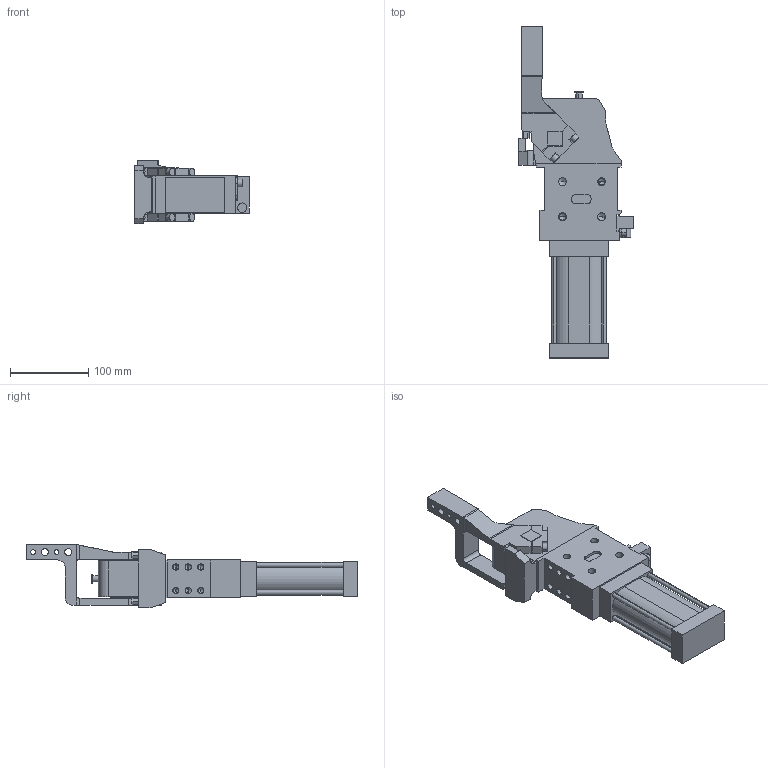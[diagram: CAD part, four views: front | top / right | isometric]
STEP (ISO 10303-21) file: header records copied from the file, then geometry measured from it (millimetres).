
FILE_DESCRIPTION (( 'STEP AP214' ), '1' );
FILE_NAME ('cpl50th1si1g_107.STEP', '2023-01-26T09:46:59', ( '' ), ( '' ), 'SwSTEP 2.0', 'SolidWorks 2022', '' );
FILE_SCHEMA (( 'AUTOMOTIVE_DESIGN' ));
Length unit declared in the file: millimetre
Products named in the file (4): leva_h1s_cpl50t; cpl50th1si1g_107; blocchetto_VEP_0; meccanica_cpl_50_tassello_esterno
Assembly tree (3 placements, depth 2):
  cpl50th1si1g_107
    meccanica_cpl_50_tassello_esterno
    blocchetto_VEP_0
    leva_h1s_cpl50t
Bounding box: 146.5 x 424.5 x 81 mm (x, y, z)
Volume: 1419749.2 mm3; surface area: 170420.9 mm2
Topology: 3 solids, 3 shells, 434 faces, 1130 edges, 705 vertices
Faces by surface type: plane 226, cylinder 158, cone 50
Entity records: 14534 total; most frequent: CARTESIAN_POINT 2329, DIRECTION 2278, ORIENTED_EDGE 2168, EDGE_CURVE 1084, AXIS2_PLACEMENT_3D 768, VECTOR 742, LINE 742, VERTEX_POINT 705
